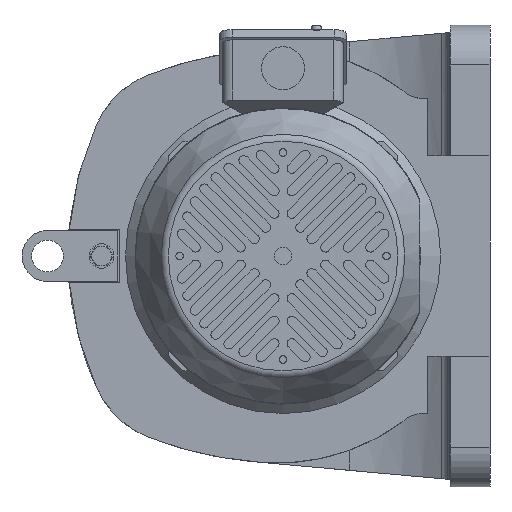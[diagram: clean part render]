
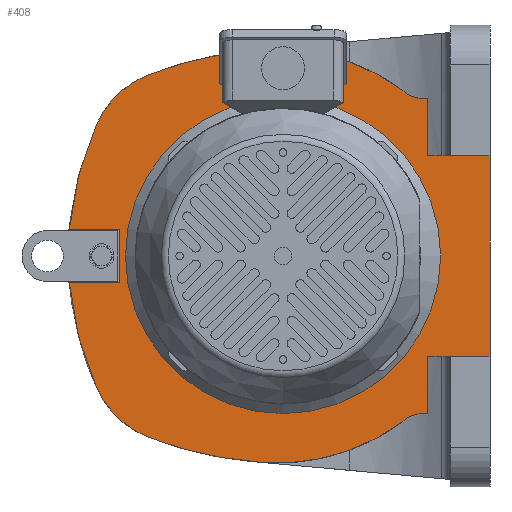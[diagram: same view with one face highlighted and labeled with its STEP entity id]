
A CAD part, left-side view. The second image highlights one B-rep face of the part: STEP entity #408.
In plain terms, the highlighted planar face has unit normal (-1, 0, 0).
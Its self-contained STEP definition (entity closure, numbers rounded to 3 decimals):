
#408 = ADVANCED_FACE( '', ( #1283 ), #1284, .F. );
#1283 = FACE_OUTER_BOUND( '', #2971, .T. );
#1284 = PLANE( '', #2972 );
#2971 = EDGE_LOOP( '', ( #5083, #5084, #5085, #5086, #5087, #5088, #5089, #5090, #5091, #5092, #5093, #5094, #5095, #5096, #5097, #5098 ) );
#2972 = AXIS2_PLACEMENT_3D( '', #5099, #5100, #5101 );
#5083 = ORIENTED_EDGE( '', *, *, #11330, .F. );
#5084 = ORIENTED_EDGE( '', *, *, #11526, .F. );
#5085 = ORIENTED_EDGE( '', *, *, #11533, .F. );
#5086 = ORIENTED_EDGE( '', *, *, #11528, .F. );
#5087 = ORIENTED_EDGE( '', *, *, #11534, .F. );
#5088 = ORIENTED_EDGE( '', *, *, #11535, .F. );
#5089 = ORIENTED_EDGE( '', *, *, #11339, .T. );
#5090 = ORIENTED_EDGE( '', *, *, #11344, .F. );
#5091 = ORIENTED_EDGE( '', *, *, #11355, .F. );
#5092 = ORIENTED_EDGE( '', *, *, #11352, .F. );
#5093 = ORIENTED_EDGE( '', *, *, #11349, .F. );
#5094 = ORIENTED_EDGE( '', *, *, #11536, .F. );
#5095 = ORIENTED_EDGE( '', *, *, #11537, .F. );
#5096 = ORIENTED_EDGE( '', *, *, #11325, .F. );
#5097 = ORIENTED_EDGE( '', *, *, #11538, .T. );
#5098 = ORIENTED_EDGE( '', *, *, #11539, .F. );
#5099 = CARTESIAN_POINT( '', ( -154., -41., -105. ) );
#5100 = DIRECTION( '', ( 1., 0., 0. ) );
#5101 = DIRECTION( '', ( 0., 0., -1. ) );
#11325 = EDGE_CURVE( '', #13480, #13482, #13483, .T. );
#11330 = EDGE_CURVE( '', #13489, #13492, #13493, .T. );
#11339 = EDGE_CURVE( '', #13503, #13507, #13509, .T. );
#11344 = EDGE_CURVE( '', #13516, #13507, #13518, .T. );
#11349 = EDGE_CURVE( '', #13526, #13528, #13529, .T. );
#11352 = EDGE_CURVE( '', #13528, #13533, #13534, .T. );
#11355 = EDGE_CURVE( '', #13533, #13516, #13538, .T. );
#11526 = EDGE_CURVE( '', #13843, #13489, #13845, .T. );
#11528 = EDGE_CURVE( '', #13847, #13848, #13849, .T. );
#11533 = EDGE_CURVE( '', #13848, #13843, #13856, .T. );
#11534 = EDGE_CURVE( '', #13857, #13847, #13858, .T. );
#11535 = EDGE_CURVE( '', #13503, #13857, #13859, .T. );
#11536 = EDGE_CURVE( '', #13860, #13526, #13861, .T. );
#11537 = EDGE_CURVE( '', #13482, #13860, #13862, .T. );
#11538 = EDGE_CURVE( '', #13480, #13863, #13864, .T. );
#11539 = EDGE_CURVE( '', #13492, #13863, #13865, .T. );
#13480 = VERTEX_POINT( '', #17080 );
#13482 = VERTEX_POINT( '', #17083 );
#13483 = CIRCLE( '', #17084, 130. );
#13489 = VERTEX_POINT( '', #17098 );
#13492 = VERTEX_POINT( '', #17101 );
#13493 = LINE( '', #17102, #17103 );
#13503 = VERTEX_POINT( '', #17126 );
#13507 = VERTEX_POINT( '', #17142 );
#13509 = CIRCLE( '', #17145, 20. );
#13516 = VERTEX_POINT( '', #17170 );
#13518 = CIRCLE( '', #17173, 130. );
#13526 = VERTEX_POINT( '', #17185 );
#13528 = VERTEX_POINT( '', #17188 );
#13529 = CIRCLE( '', #17189, 200. );
#13533 = VERTEX_POINT( '', #17217 );
#13534 = CIRCLE( '', #17218, 60. );
#13538 = CIRCLE( '', #17240, 235. );
#13843 = VERTEX_POINT( '', #17722 );
#13845 = LINE( '', #17725, #17726 );
#13847 = VERTEX_POINT( '', #17728 );
#13848 = VERTEX_POINT( '', #17729 );
#13849 = LINE( '', #17730, #17731 );
#13856 = LINE( '', #17740, #17741 );
#13857 = VERTEX_POINT( '', #17742 );
#13858 = LINE( '', #17743, #17744 );
#13859 = LINE( '', #17745, #17746 );
#13860 = VERTEX_POINT( '', #17747 );
#13861 = CIRCLE( '', #17748, 60. );
#13862 = CIRCLE( '', #17749, 235. );
#13863 = VERTEX_POINT( '', #17750 );
#13864 = CIRCLE( '', #17751, 20. );
#13865 = LINE( '', #17752, #17753 );
#17080 = CARTESIAN_POINT( '', ( -154., -114.365, -104.473 ) );
#17083 = CARTESIAN_POINT( '', ( -154., -25.409, -129.482 ) );
#17084 = AXIS2_PLACEMENT_3D( '', #23006, #23007, #23008 );
#17098 = CARTESIAN_POINT( '', ( -154., -130.945, -62.9 ) );
#17101 = CARTESIAN_POINT( '', ( -154., -130.945, -99. ) );
#17102 = CARTESIAN_POINT( '', ( -154., -130.945, 142.365 ) );
#17103 = VECTOR( '', #23016, 1000. );
#17126 = CARTESIAN_POINT( '', ( -154., -125.499, 99. ) );
#17142 = CARTESIAN_POINT( '', ( -154., -114.365, 104.473 ) );
#17145 = AXIS2_PLACEMENT_3D( '', #23027, #23028, #23029 );
#17170 = CARTESIAN_POINT( '', ( -154., -25.409, 129.482 ) );
#17173 = AXIS2_PLACEMENT_3D( '', #23034, #23035, #23036 );
#17185 = CARTESIAN_POINT( '', ( -154., 77.389, -82.061 ) );
#17188 = CARTESIAN_POINT( '', ( -154., 77.389, 82.061 ) );
#17189 = AXIS2_PLACEMENT_3D( '', #23042, #23043, #23044 );
#17217 = CARTESIAN_POINT( '', ( -154., 45.792, 113.385 ) );
#17218 = AXIS2_PLACEMENT_3D( '', #23046, #23047, #23048 );
#17240 = AXIS2_PLACEMENT_3D( '', #23050, #23051, #23052 );
#17722 = CARTESIAN_POINT( '', ( -154., -170., -62.9 ) );
#17725 = CARTESIAN_POINT( '', ( -154., -170., -62.9 ) );
#17726 = VECTOR( '', #23316, 1000. );
#17728 = CARTESIAN_POINT( '', ( -154., -130.945, 62.9 ) );
#17729 = CARTESIAN_POINT( '', ( -154., -170., 62.9 ) );
#17730 = CARTESIAN_POINT( '', ( -154., 0., 62.9 ) );
#17731 = VECTOR( '', #23320, 1000. );
#17740 = CARTESIAN_POINT( '', ( -154., -170., 62.9 ) );
#17741 = VECTOR( '', #23329, 1000. );
#17742 = CARTESIAN_POINT( '', ( -154., -130.945, 99. ) );
#17743 = CARTESIAN_POINT( '', ( -154., -130.945, 142.365 ) );
#17744 = VECTOR( '', #23330, 1000. );
#17745 = CARTESIAN_POINT( '', ( -154., -125.499, 99. ) );
#17746 = VECTOR( '', #23331, 1000. );
#17747 = CARTESIAN_POINT( '', ( -154., 45.792, -113.385 ) );
#17748 = AXIS2_PLACEMENT_3D( '', #23332, #23333, #23334 );
#17749 = AXIS2_PLACEMENT_3D( '', #23335, #23336, #23337 );
#17750 = CARTESIAN_POINT( '', ( -154., -125.499, -99. ) );
#17751 = AXIS2_PLACEMENT_3D( '', #23338, #23339, #23340 );
#17752 = CARTESIAN_POINT( '', ( -154., -167., -99. ) );
#17753 = VECTOR( '', #23341, 1000. );
#23006 = CARTESIAN_POINT( '', ( -154., -37., 0. ) );
#23007 = DIRECTION( '', ( 1., 0., 0. ) );
#23008 = DIRECTION( '', ( 0., 0., -1. ) );
#23016 = DIRECTION( '', ( 0., 0., -1. ) );
#23027 = CARTESIAN_POINT( '', ( -154., -128.32, 118.8 ) );
#23028 = DIRECTION( '', ( 1., 0., 0. ) );
#23029 = DIRECTION( '', ( 0., 0., -1. ) );
#23034 = CARTESIAN_POINT( '', ( -154., -37., 0. ) );
#23035 = DIRECTION( '', ( 1., 0., 0. ) );
#23036 = DIRECTION( '', ( 0., 0., -1. ) );
#23042 = CARTESIAN_POINT( '', ( -154., -105., 0. ) );
#23043 = DIRECTION( '', ( 1., 0., 0. ) );
#23044 = DIRECTION( '', ( 0., 0., -1. ) );
#23046 = CARTESIAN_POINT( '', ( -154., 22.36, 58.15 ) );
#23047 = DIRECTION( '', ( 1., 0., 0. ) );
#23048 = DIRECTION( '', ( 0., 0., -1. ) );
#23050 = CARTESIAN_POINT( '', ( -154., -41., -105. ) );
#23051 = DIRECTION( '', ( 1., 0., 0. ) );
#23052 = DIRECTION( '', ( 0., 0., -1. ) );
#23316 = DIRECTION( '', ( 0., 1., 0. ) );
#23320 = DIRECTION( '', ( 0., -1., 0. ) );
#23329 = DIRECTION( '', ( 0., 0., -1. ) );
#23330 = DIRECTION( '', ( 0., 0., -1. ) );
#23331 = DIRECTION( '', ( 0., -1., 0. ) );
#23332 = CARTESIAN_POINT( '', ( -154., 22.36, -58.15 ) );
#23333 = DIRECTION( '', ( 1., 0., 0. ) );
#23334 = DIRECTION( '', ( 0., 0., -1. ) );
#23335 = CARTESIAN_POINT( '', ( -154., -41., 105. ) );
#23336 = DIRECTION( '', ( 1., 0., 0. ) );
#23337 = DIRECTION( '', ( 0., 0., -1. ) );
#23338 = CARTESIAN_POINT( '', ( -154., -128.32, -118.8 ) );
#23339 = DIRECTION( '', ( 1., 0., 0. ) );
#23340 = DIRECTION( '', ( 0., 0., -1. ) );
#23341 = DIRECTION( '', ( 0., 1., 0. ) );
